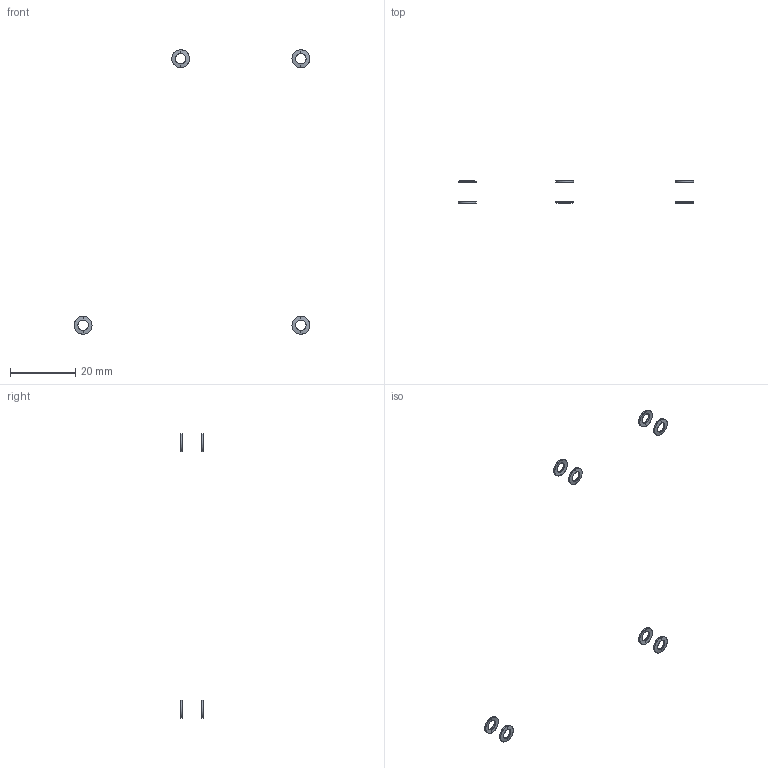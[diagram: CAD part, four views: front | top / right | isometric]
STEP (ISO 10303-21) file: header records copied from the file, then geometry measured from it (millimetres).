
FILE_DESCRIPTION(/* description */ (''),/* implementation_level */ '2;1');
FILE_NAME(/* name */ '1.frame-bottom#1.6#GTS3',/* time_stamp */ '2014-12-01T20:11:25+01:00',/* author */ (''),/* organization */ (''),/* preprocessor_version */ 'ST-DEVELOPER v14',/* originating_system */ '',/* authorisation */ '');
FILE_SCHEMA (('AUTOMOTIVE_DESIGN'));
Length unit declared in the file: millimetre
Products named in the file (2): Document; washer Schnorr-like, lock, M3
Assembly tree (4 placements, depth 2):
  Document
    washer Schnorr-like, lock, M3  x4
Bounding box: 72.5 x 7.2 x 87.5 mm (x, y, z)
Surface area: 352.1 mm2 (no closed solid volume)
Topology: 0 solids, 64 shells, 64 faces, 256 edges, 256 vertices
Faces by surface type: bspline 64
Entity records: 3603 total; most frequent: CARTESIAN_POINT 1767, B_SPLINE_CURVE_WITH_KNOTS 240, ORIENTED_EDGE 160, PCURVE 160, DEFINITIONAL_REPRESENTATION 160, SURFACE_CURVE 160, EDGE_CURVE 160, VERTEX_POINT 160
